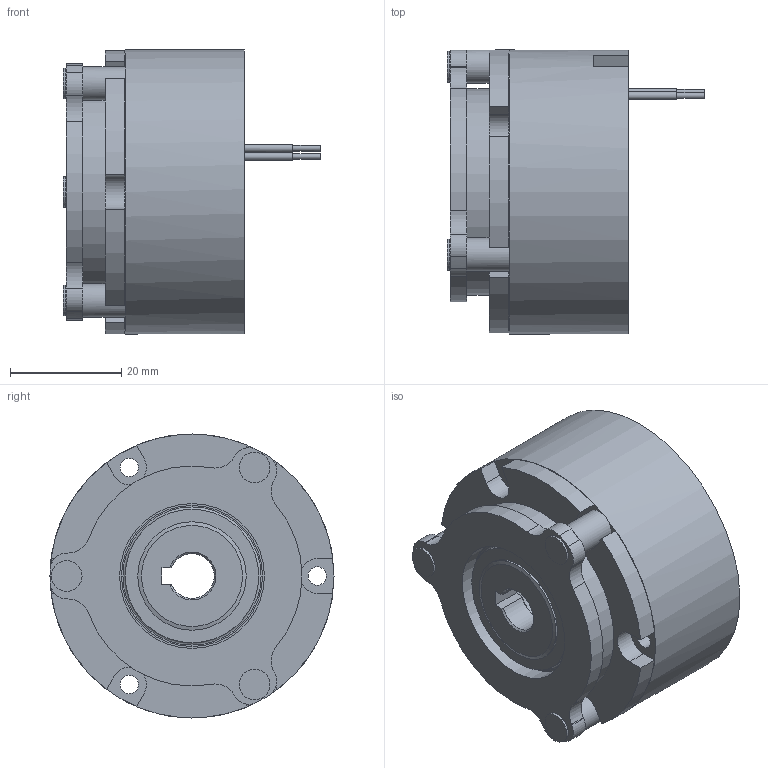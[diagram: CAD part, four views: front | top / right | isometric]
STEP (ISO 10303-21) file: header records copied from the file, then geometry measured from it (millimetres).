
FILE_DESCRIPTION (( 'STEP AP214' ), '1' );
FILE_NAME ('KS_10105A00_Customer_3D_model_19.12.17.STEP', '2020-03-24T06:27:46', ( '' ), ( '' ), 'SwSTEP 2.0', 'SolidWorks 2018', '' );
FILE_SCHEMA (( 'AUTOMOTIVE_DESIGN' ));
Length unit declared in the file: millimetre
Products named in the file (1): KS_10105A00_Customer_3D_model_19.12.17
Bounding box: 46.19 x 51 x 51 mm (x, y, z)
Volume: 53503.1 mm3; surface area: 15956.5 mm2
Topology: 1 solids, 1 shells, 110 faces, 269 edges, 181 vertices
Faces by surface type: cylinder 57, plane 46, cone 5, bspline 1, torus 1
Full cylindrical faces by diameter (mm): 1 x2, 1.4 x2, 2.5 x3, 3.3 x3, 5.5 x3, 6 x3, 13.5 x2, 19.476 x1, 20 x1, 24 x1, 25.3 x1, 26 x1, 37 x1, 51 x1
Entity records: 3168 total; most frequent: DIRECTION 566, CARTESIAN_POINT 548, ORIENTED_EDGE 456, AXIS2_PLACEMENT_3D 232, EDGE_CURVE 228, EDGE_LOOP 174, VERTEX_POINT 170, FACE_OUTER_BOUND 137
